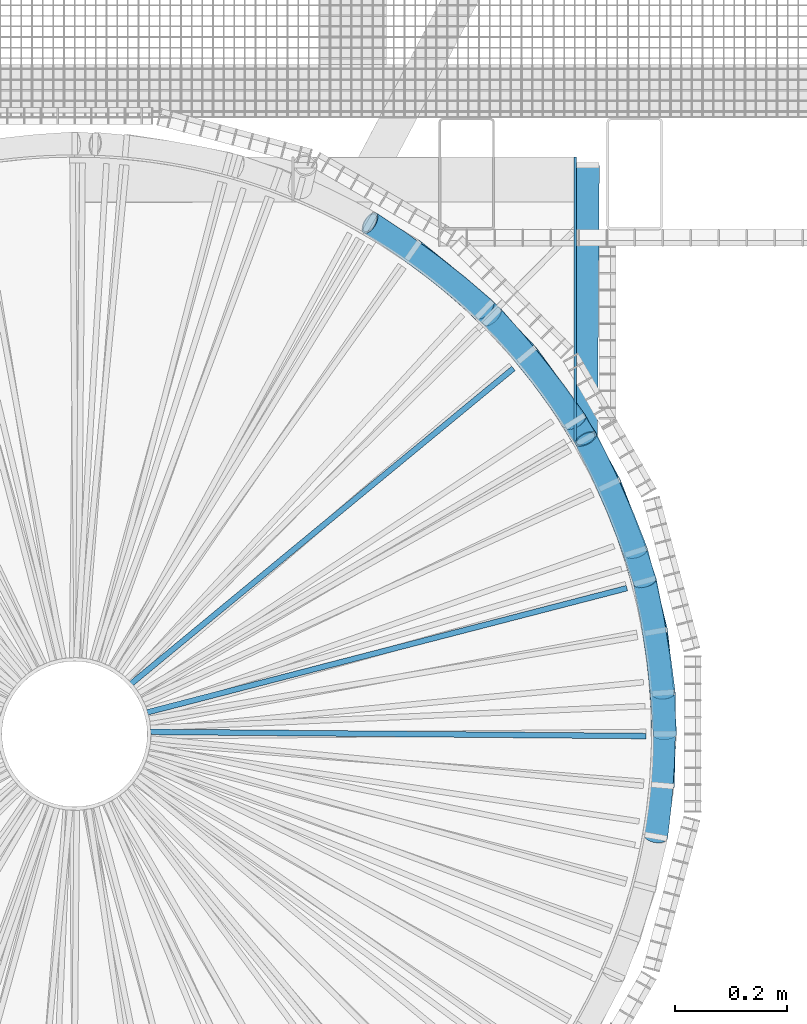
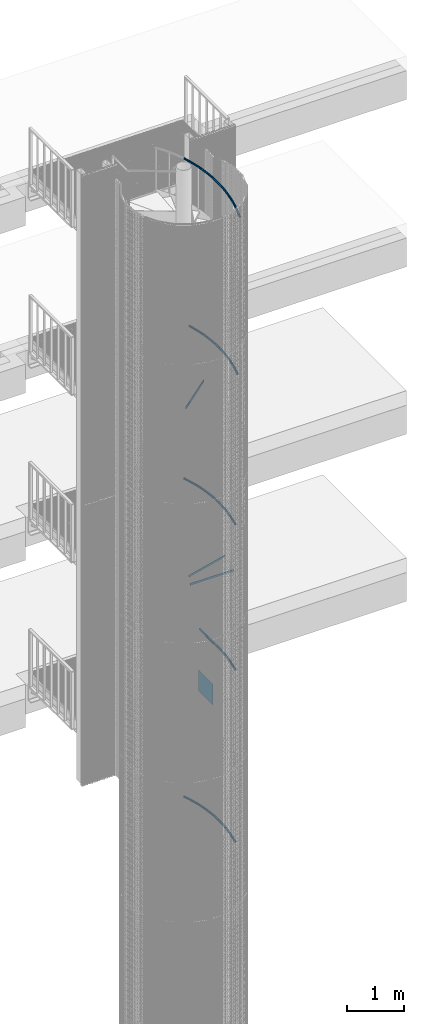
# One storey, part 314 of 1183: 19 members, 5 beams, 22 elements without a shape of their own.
"""IFC2X3 building model written with IfcOpenShell, lengths in millimetres."""

from ifc_helpers import new_model, entity, si_unit, frame, origin_with_axes, origin_2d_with_axis, place, context, subcontext, project, spatial, polyline, rectangle, hollow_circle, outline, extrude, boolean, material, type_object, element, aggregate, save


model = new_model("IFC2X3")

# Units and contexts
model_context = context("Model", 3, precision=1e-05, world=origin_with_axes())
body_context = subcontext(model_context, "Body", "Model", "MODEL_VIEW")
ifc_project = project(units=[si_unit("LENGTHUNIT", "METRE", prefix="MILLI"), si_unit("AREAUNIT", "SQUARE_METRE"), si_unit("VOLUMEUNIT", "CUBIC_METRE"), si_unit("MASSUNIT", "GRAM", prefix="KILO"), si_unit("TIMEUNIT", "SECOND"), si_unit("PLANEANGLEUNIT", "RADIAN"), si_unit("SOLIDANGLEUNIT", "STERADIAN"), si_unit("THERMODYNAMICTEMPERATUREUNIT", "DEGREE_CELSIUS"), si_unit("LUMINOUSINTENSITYUNIT", "LUMEN")], contexts=[model_context])

# Site, building, storey
site_placement = place(None, origin_with_axes())
site = spatial("IfcSite", under=ifc_project, at=site_placement, Name="Undefined", CompositionType="ELEMENT")
building_placement = place(site_placement, origin_with_axes())
building = spatial("IfcBuilding", under=site, at=building_placement, Name="Undefined", CompositionType="ELEMENT")
storey_placement = place(building_placement, origin_with_axes())
storey = spatial("IfcBuildingStorey", under=building, at=storey_placement, Name="Undefined", CompositionType="ELEMENT", Elevation=0.0)

# Assembly, beam
assembly_1_placement = place(storey_placement, origin_with_axes())
assembly_1 = element("IfcElementAssembly", 1, at=assembly_1_placement, inside=storey, Name="MONTANT", AssemblyPlace="NOTDEFINED", PredefinedType="NOTDEFINED")
ifc_material = material(Name="STEEL/S235JR")
beam_type_1 = type_object("IfcBeamType", Name="TUBE-42.4*3.2", PredefinedType="NOTDEFINED")
beam_1_placement = place(assembly_1_placement, frame((912.785820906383, 526.99527353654, 7589.84000000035), z_axis=(0.999979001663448, -0.00648044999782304, 0.0), x_axis=(0.006480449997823, 0.999979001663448, 0.0)))
beam_1 = element("IfcBeam", 2, at=beam_1_placement, type_object=beam_type_1, material=ifc_material, Name="MAIN_COURANTE", context=body_context, shape_type="SweptSolid", body=[
    extrude(hollow_circle(Radius=21.200000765, WallThickness=3.200000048, at=origin_2d_with_axis()), frame((488.384981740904, -9.09494701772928e-13, -4.23606446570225e-16), z_axis=(-1.0, 0.0, 0.0), x_axis=(0.0, -1.0, 0.0)), (0.0, 0.0, 1.0), 488.38),
])

assembly_2_placement = place(storey_placement, origin_with_axes())
assembly_2 = element("IfcElementAssembly", 3, at=assembly_2_placement, inside=storey, Name="POTEAU", AssemblyPlace="NOTDEFINED", PredefinedType="NOTDEFINED")
beam_type_2 = type_object("IfcBeamType", Name="PL10*40", PredefinedType="NOTDEFINED")
beam_2_placement = place(assembly_2_placement, frame((61.5514692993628, 57.2469454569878, 13196.4), z_axis=(0.0, 0.0, 1.0), x_axis=(0.771460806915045, 0.636276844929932, 0.0)))
beam_2 = element("IfcBeam", 4, at=beam_2_placement, type_object=beam_type_2, material=ifc_material, Name="RAIDISSEUR", context=body_context, shape_type="CSG", body=[
    boolean("DIFFERENCE", extrude(rectangle(XDim=10.0, YDim=40.0, at=origin_2d_with_axis()), frame((935.982964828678, -2.59787459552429e-14, -3.63797880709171e-12), z_axis=(-1.0, 0.0, 0.0), x_axis=(0.0, -1.0, 0.0)), (0.0, 0.0, 1.0), 935.98), extrude(outline(polyline([(0.0, 0.0), (30.5663019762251, -4.91127138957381e-11), (60.366242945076, 6.80164206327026), (87.9055294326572, 20.0638634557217), (111.803226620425, 39.1216410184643), (130.861004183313, 63.0193382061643), (144.123225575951, 90.5586246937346), (150.9248676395, 120.358565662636), (150.924867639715, 150.924867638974), (144.123225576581, 180.724808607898), (130.86100418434, 208.264095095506), (111.803226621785, 232.161792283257), (87.9055294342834, 251.219569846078), (60.3662429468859, 264.481791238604), (30.5663019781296, 271.283433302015), (1.90266291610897e-09, 271.28343330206), (-29.7999409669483, 264.481791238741), (-57.3392274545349, 251.219569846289), (-81.2369246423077, 232.161792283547), (-100.294702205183, 208.26409509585), (-113.556923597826, 180.724808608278), (-120.35856566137, 150.92486763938), (-120.358565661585, 120.358565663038), (-113.556923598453, 90.5586246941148), (-100.294702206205, 63.0193382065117), (-81.2369246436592, 39.1216410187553), (-57.3392274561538, 20.0638634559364), (-29.7999409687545, 6.80164206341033), (0.0, 0.0)])), frame((-187.015846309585, 84.4501059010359, -22.5), z_axis=(0.0, 0.0, 1.0), x_axis=(-0.566618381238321, -0.823980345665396, 0.0)), (0.0, 0.0, 1.0), 45.0)),
])
aggregate(assembly_2, [beam_2])

# Assembly, beams
assembly_3_placement = place(storey_placement, origin_with_axes())
assembly_3 = element("IfcElementAssembly", 5, at=assembly_3_placement, inside=storey, Name="POTEAU", AssemblyPlace="NOTDEFINED", PredefinedType="NOTDEFINED")
beam_3_placement = place(assembly_3_placement, frame((79.9781805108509, 25.8705774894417, 9596.40000000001), z_axis=(0.0, 0.0, 1.0), x_axis=(0.968083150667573, 0.250629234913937, 0.0)))
beam_3 = element("IfcBeam", 6, at=beam_3_placement, type_object=beam_type_2, material=ifc_material, Name="RAIDISSEUR", context=body_context, shape_type="CSG", body=[
    boolean("DIFFERENCE", extrude(rectangle(XDim=10.0, YDim=40.0, at=origin_2d_with_axis()), frame((935.982964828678, -2.59787459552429e-14, -3.63797880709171e-12), z_axis=(-1.0, 0.0, 0.0), x_axis=(0.0, -1.0, 0.0)), (0.0, 0.0, 1.0), 935.98), extrude(outline(polyline([(0.0, 0.0), (30.5663019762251, -4.91127138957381e-11), (60.366242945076, 6.80164206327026), (87.9055294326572, 20.0638634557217), (111.803226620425, 39.1216410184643), (130.861004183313, 63.0193382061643), (144.123225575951, 90.5586246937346), (150.9248676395, 120.358565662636), (150.924867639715, 150.924867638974), (144.123225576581, 180.724808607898), (130.86100418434, 208.264095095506), (111.803226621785, 232.161792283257), (87.9055294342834, 251.219569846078), (60.3662429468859, 264.481791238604), (30.5663019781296, 271.283433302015), (1.90266291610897e-09, 271.28343330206), (-29.7999409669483, 264.481791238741), (-57.3392274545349, 251.219569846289), (-81.2369246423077, 232.161792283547), (-100.294702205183, 208.26409509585), (-113.556923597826, 180.724808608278), (-120.35856566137, 150.92486763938), (-120.358565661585, 120.358565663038), (-113.556923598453, 90.5586246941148), (-100.294702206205, 63.0193382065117), (-81.2369246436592, 39.1216410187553), (-57.3392274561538, 20.0638634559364), (-29.7999409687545, 6.80164206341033), (0.0, 0.0)])), frame((-215.15882831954, 32.4946825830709, -22.5), z_axis=(0.0, 0.0, 1.0), x_axis=(-0.165301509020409, -0.986243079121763, 0.0)), (0.0, 0.0, 1.0), 45.0)),
])
beam_4_placement = place(assembly_3_placement, frame((83.9487882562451, 4.28918262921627, 9439.88000000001), z_axis=(0.0, 0.0, 1.0), x_axis=(0.99996413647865, -0.00846910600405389, 0.0)))
beam_4 = element("IfcBeam", 7, at=beam_4_placement, type_object=beam_type_2, material=ifc_material, Name="RAIDISSEUR", context=body_context, shape_type="CSG", body=[
    boolean("DIFFERENCE", extrude(rectangle(XDim=10.0, YDim=40.0, at=origin_2d_with_axis()), frame((935.982964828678, -2.59787459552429e-14, -3.63797880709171e-12), z_axis=(-1.0, 0.0, 0.0), x_axis=(0.0, -1.0, 0.0)), (0.0, 0.0, 1.0), 935.98), extrude(outline(polyline([(0.0, 0.0), (30.5663019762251, -4.91127138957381e-11), (60.366242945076, 6.80164206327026), (87.9055294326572, 20.0638634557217), (111.803226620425, 39.1216410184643), (130.861004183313, 63.0193382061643), (144.123225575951, 90.5586246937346), (150.9248676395, 120.358565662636), (150.924867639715, 150.924867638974), (144.123225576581, 180.724808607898), (130.86100418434, 208.264095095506), (111.803226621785, 232.161792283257), (87.9055294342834, 251.219569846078), (60.3662429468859, 264.481791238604), (30.5663019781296, 271.283433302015), (1.90266291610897e-09, 271.28343330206), (-29.7999409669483, 264.481791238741), (-57.3392274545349, 251.219569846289), (-81.2369246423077, 232.161792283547), (-100.294702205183, 208.26409509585), (-113.556923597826, 180.724808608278), (-120.35856566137, 150.92486763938), (-120.358565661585, 120.358565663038), (-113.556923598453, 90.5586246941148), (-100.294702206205, 63.0193382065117), (-81.2369246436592, 39.1216410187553), (-57.3392274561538, 20.0638634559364), (-29.7999409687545, 6.80164206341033), (0.0, 0.0)])), frame((-220.390952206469, -2.75275603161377, -22.5), z_axis=(0.0, 0.0, 1.0), x_axis=(0.0955894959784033, -0.995420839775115, 0.0)), (0.0, 0.0, 1.0), 45.0)),
])
aggregate(assembly_3, [beam_3, beam_4])

# Assembly, beam
assembly_4_placement = place(storey_placement, origin_with_axes())
assembly_4 = element("IfcElementAssembly", 8, at=assembly_4_placement, inside=storey, AssemblyPlace="NOTDEFINED", PredefinedType="NOTDEFINED")
beam_type_3 = type_object("IfcBeamType", Name="PLT4*450", PredefinedType="NOTDEFINED")
beam_5_placement = place(assembly_4_placement, frame((894.024575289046, 515.010911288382, 6489.84000000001), z_axis=(0.0, 0.0, 1.0), x_axis=(-0.000144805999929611, 0.999999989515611, 0.0)))
beam_5 = element("IfcBeam", 9, at=beam_5_placement, type_object=beam_type_3, material=ifc_material, Name="GARDE_PIED", context=body_context, shape_type="SweptSolid", body=[
    extrude(rectangle(XDim=4.0, YDim=450.0, at=origin_2d_with_axis()), frame((515.005549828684, 3.63797880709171e-12, 0.0), z_axis=(-1.0, 0.0, 0.0), x_axis=(0.0, -1.0, 0.0)), (0.0, 0.0, 1.0), 515.01),
])
aggregate(assembly_4, [beam_5])

# Member
member_type = type_object("IfcMemberType", Name="TUBE-42.4*3.2", PredefinedType="NOTDEFINED")
member_1_placement = place(assembly_1_placement, frame((1018.08582090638, 272.79527353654, 7435.32000000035), z_axis=(0.923879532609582, 0.382683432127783, -1.50203049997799e-10), x_axis=(-0.333667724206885, 0.805545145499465, 0.489655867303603)))
member_1 = element("IfcMember", 10, at=member_1_placement, type_object=member_type, material=ifc_material, Name="MAIN_COURANTE", context=body_context, shape_type="SweptSolid", body=[
    entity("IfcRevolvedAreaSolid", entity("IfcCircleHollowProfileDef", "AREA", None, entity("IfcAxis2Placement2D", entity("IfcCartesianPoint", [0.0, 0.0]), entity("IfcDirection", [1.0, 0.0])), 21.200000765, 3.200000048), entity("IfcAxis2Placement3D", entity("IfcCartesianPoint", [315.568566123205, -9.09494701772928e-13, -1.31255851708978e-15]), entity("IfcDirection", [-0.997194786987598, -4.44488503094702e-18, 0.0748502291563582]), entity("IfcDirection", [0.0, -1.0, 0.0])), entity("IfcAxis1Placement", entity("IfcCartesianPoint", [0.0, -2108.0, 0.0]), entity("IfcDirection", [1.0, 0.0, 0.0])), 0.149840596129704),
])

aggregate(assembly_1, [beam_1, member_1])

# Assembly, member
assembly_5_placement = place(storey_placement, origin_with_axes())
assembly_5 = element("IfcElementAssembly", 11, at=assembly_5_placement, inside=storey, Name="MONTANT", AssemblyPlace="NOTDEFINED", PredefinedType="NOTDEFINED")
member_2_placement = place(assembly_5_placement, frame((1054.00000001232, -3.31567662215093e-10, 7280.80000000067), z_axis=(0.991444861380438, 0.130526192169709, -6.66041160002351e-11), x_axis=(-0.113807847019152, 0.864456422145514, 0.489655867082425)))
member_2 = element("IfcMember", 12, at=member_2_placement, type_object=member_type, material=ifc_material, Name="MAIN_COURANTE", context=body_context, shape_type="SweptSolid", body=[
    entity("IfcRevolvedAreaSolid", entity("IfcCircleHollowProfileDef", "AREA", None, entity("IfcAxis2Placement2D", entity("IfcCartesianPoint", [0.0, 0.0]), entity("IfcDirection", [1.0, 0.0])), 21.200000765, 3.200000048), entity("IfcAxis2Placement3D", entity("IfcCartesianPoint", [315.568566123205, -9.09494701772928e-13, -1.31255851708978e-15]), entity("IfcDirection", [-0.997194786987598, -4.44488503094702e-18, 0.0748502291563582]), entity("IfcDirection", [0.0, -1.0, 0.0])), entity("IfcAxis1Placement", entity("IfcCartesianPoint", [0.0, -2108.0, 0.0]), entity("IfcDirection", [1.0, 0.0, 0.0])), 0.149840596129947),
])
aggregate(assembly_5, [member_2])

assembly_6_placement = place(storey_placement, origin_with_axes())
assembly_6 = element("IfcElementAssembly", 13, at=assembly_6_placement, inside=storey, Name="MONTANT", AssemblyPlace="NOTDEFINED", PredefinedType="NOTDEFINED")
member_3_placement = place(assembly_6_placement, frame((745.290547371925, 745.290547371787, 4035.88000000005), z_axis=(0.608761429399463, 0.793353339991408, 1.80913957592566e-10), x_axis=(-0.691737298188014, 0.53078869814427, 0.48965586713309)))
member_3 = element("IfcMember", 14, at=member_3_placement, type_object=member_type, material=ifc_material, Name="MAIN_COURANTE", context=body_context, shape_type="SweptSolid", body=[
    entity("IfcRevolvedAreaSolid", entity("IfcCircleHollowProfileDef", "AREA", None, entity("IfcAxis2Placement2D", entity("IfcCartesianPoint", [0.0, 0.0]), entity("IfcDirection", [1.0, 0.0])), 21.200000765, 3.200000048), entity("IfcAxis2Placement3D", entity("IfcCartesianPoint", [315.568566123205, -9.09494701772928e-13, -1.31255851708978e-15]), entity("IfcDirection", [-0.997194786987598, -4.44488503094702e-18, 0.0748502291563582]), entity("IfcDirection", [0.0, -1.0, 0.0])), entity("IfcAxis1Placement", entity("IfcCartesianPoint", [0.0, -2108.0, 0.0]), entity("IfcDirection", [1.0, 0.0, 0.0])), 0.14984059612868),
])
aggregate(assembly_6, [member_3])

assembly_7_placement = place(storey_placement, origin_with_axes())
assembly_7 = element("IfcElementAssembly", 15, at=assembly_7_placement, inside=storey, Name="MONTANT", AssemblyPlace="NOTDEFINED", PredefinedType="NOTDEFINED")
member_4_placement = place(assembly_7_placement, frame((912.790775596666, 527.000000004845, 3881.35999999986), z_axis=(0.793353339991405, 0.608761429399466, -1.80914867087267e-10), x_axis=(-0.530788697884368, 0.691737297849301, 0.489655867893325)))
member_4 = element("IfcMember", 16, at=member_4_placement, type_object=member_type, material=ifc_material, Name="MAIN_COURANTE", context=body_context, shape_type="SweptSolid", body=[
    entity("IfcRevolvedAreaSolid", entity("IfcCircleHollowProfileDef", "AREA", None, entity("IfcAxis2Placement2D", entity("IfcCartesianPoint", [0.0, 0.0]), entity("IfcDirection", [1.0, 0.0])), 21.200000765, 3.200000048), entity("IfcAxis2Placement3D", entity("IfcCartesianPoint", [315.568566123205, -9.09494701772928e-13, -1.31255851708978e-15]), entity("IfcDirection", [-0.997194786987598, -4.44488503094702e-18, 0.0748502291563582]), entity("IfcDirection", [0.0, -1.0, 0.0])), entity("IfcAxis1Placement", entity("IfcCartesianPoint", [0.0, -2108.0, 0.0]), entity("IfcDirection", [1.0, 0.0, 0.0])), 0.149840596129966),
])
aggregate(assembly_7, [member_4])

assembly_8_placement = place(storey_placement, origin_with_axes())
assembly_8 = element("IfcElementAssembly", 17, at=assembly_8_placement, inside=storey, Name="MONTANT", AssemblyPlace="NOTDEFINED", PredefinedType="NOTDEFINED")
member_5_placement = place(assembly_8_placement, frame((1018.08582090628, 272.795273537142, 3726.84000000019), z_axis=(0.923879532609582, 0.382683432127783, -1.50203049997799e-10), x_axis=(-0.333667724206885, 0.805545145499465, 0.489655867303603)))
member_5 = element("IfcMember", 18, at=member_5_placement, type_object=member_type, material=ifc_material, Name="MAIN_COURANTE", context=body_context, shape_type="SweptSolid", body=[
    entity("IfcRevolvedAreaSolid", entity("IfcCircleHollowProfileDef", "AREA", None, entity("IfcAxis2Placement2D", entity("IfcCartesianPoint", [0.0, 0.0]), entity("IfcDirection", [1.0, 0.0])), 21.200000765, 3.200000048), entity("IfcAxis2Placement3D", entity("IfcCartesianPoint", [315.568566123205, -9.09494701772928e-13, -1.31255851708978e-15]), entity("IfcDirection", [-0.997194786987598, -4.44488503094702e-18, 0.0748502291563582]), entity("IfcDirection", [0.0, -1.0, 0.0])), entity("IfcAxis1Placement", entity("IfcCartesianPoint", [0.0, -2108.0, 0.0]), entity("IfcDirection", [1.0, 0.0, 0.0])), 0.149840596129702),
])
aggregate(assembly_8, [member_5])

assembly_9_placement = place(storey_placement, origin_with_axes())
assembly_9 = element("IfcElementAssembly", 19, at=assembly_9_placement, inside=storey, Name="MONTANT", AssemblyPlace="NOTDEFINED", PredefinedType="NOTDEFINED")
member_6_placement = place(assembly_9_placement, frame((1054.0000000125, -1.78374648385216e-10, 3572.32000000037), z_axis=(0.991444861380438, 0.130526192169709, -6.66041160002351e-11), x_axis=(-0.113807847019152, 0.864456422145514, 0.489655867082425)))
member_6 = element("IfcMember", 20, at=member_6_placement, type_object=member_type, material=ifc_material, Name="MAIN_COURANTE", context=body_context, shape_type="SweptSolid", body=[
    entity("IfcRevolvedAreaSolid", entity("IfcCircleHollowProfileDef", "AREA", None, entity("IfcAxis2Placement2D", entity("IfcCartesianPoint", [0.0, 0.0]), entity("IfcDirection", [1.0, 0.0])), 21.200000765, 3.200000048), entity("IfcAxis2Placement3D", entity("IfcCartesianPoint", [315.568566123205, -9.09494701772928e-13, -1.31255851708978e-15]), entity("IfcDirection", [-0.997194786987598, -4.44488503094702e-18, 0.0748502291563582]), entity("IfcDirection", [0.0, -1.0, 0.0])), entity("IfcAxis1Placement", entity("IfcCartesianPoint", [0.0, -2108.0, 0.0]), entity("IfcDirection", [1.0, 0.0, 0.0])), 0.149840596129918),
])
aggregate(assembly_9, [member_6])

assembly_10_placement = place(storey_placement, origin_with_axes())
assembly_10 = element("IfcElementAssembly", 21, at=assembly_10_placement, inside=storey, Name="MONTANT", AssemblyPlace="NOTDEFINED", PredefinedType="NOTDEFINED")
member_7_placement = place(assembly_10_placement, frame((745.290547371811, 745.290547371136, 10876.919999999), z_axis=(0.608761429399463, 0.793353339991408, 1.80913957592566e-10), x_axis=(-0.689586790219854, 0.5291385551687, 0.494451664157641)))
member_7 = element("IfcMember", 22, at=member_7_placement, type_object=member_type, material=ifc_material, Name="MAIN_COURANTE", context=body_context, shape_type="SweptSolid", body=[
    entity("IfcRevolvedAreaSolid", entity("IfcCircleHollowProfileDef", "AREA", None, entity("IfcAxis2Placement2D", entity("IfcCartesianPoint", [0.0, 0.0]), entity("IfcDirection", [1.0, 0.0])), 21.200000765, 3.200000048), entity("IfcAxis2Placement3D", entity("IfcCartesianPoint", [316.552681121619, 9.09494701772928e-13, -1.82569453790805e-12]), entity("IfcDirection", [-0.997177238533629, 2.1263748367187e-18, 0.0750836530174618]), entity("IfcDirection", [0.0, -1.0, 0.0])), entity("IfcAxis1Placement", entity("IfcCartesianPoint", [0.0, -2108.0, 0.0]), entity("IfcDirection", [1.0, 0.0, 0.0])), 0.150308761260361),
])
aggregate(assembly_10, [member_7])

assembly_11_placement = place(storey_placement, origin_with_axes())
assembly_11 = element("IfcElementAssembly", 23, at=assembly_11_placement, inside=storey, Name="MONTANT", AssemblyPlace="NOTDEFINED", PredefinedType="NOTDEFINED")
member_8_placement = place(assembly_11_placement, frame((912.790775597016, 527.000000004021, 10720.4000000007), z_axis=(0.793353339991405, 0.608761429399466, -1.80914867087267e-10), x_axis=(-0.529138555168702, 0.689586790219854, 0.494451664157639)))
member_8 = element("IfcMember", 24, at=member_8_placement, type_object=member_type, material=ifc_material, Name="MAIN_COURANTE", context=body_context, shape_type="SweptSolid", body=[
    entity("IfcRevolvedAreaSolid", entity("IfcCircleHollowProfileDef", "AREA", None, entity("IfcAxis2Placement2D", entity("IfcCartesianPoint", [0.0, 0.0]), entity("IfcDirection", [1.0, 0.0])), 21.200000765, 3.200000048), entity("IfcAxis2Placement3D", entity("IfcCartesianPoint", [316.552681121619, 9.09494701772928e-13, -1.82569453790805e-12]), entity("IfcDirection", [-0.997177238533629, 2.1263748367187e-18, 0.0750836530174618]), entity("IfcDirection", [0.0, -1.0, 0.0])), entity("IfcAxis1Placement", entity("IfcCartesianPoint", [0.0, -2108.0, 0.0]), entity("IfcDirection", [1.0, 0.0, 0.0])), 0.150308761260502),
])
aggregate(assembly_11, [member_8])

assembly_12_placement = place(storey_placement, origin_with_axes())
assembly_12 = element("IfcElementAssembly", 25, at=assembly_12_placement, inside=storey, Name="MONTANT", AssemblyPlace="NOTDEFINED", PredefinedType="NOTDEFINED")
member_9_placement = place(assembly_12_placement, frame((1018.08582090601, 272.795273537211, 10563.8800000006), z_axis=(0.923879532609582, 0.382683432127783, -1.50203049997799e-10), x_axis=(-0.332630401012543, 0.803040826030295, 0.494451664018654)))
member_9 = element("IfcMember", 26, at=member_9_placement, type_object=member_type, material=ifc_material, Name="MAIN_COURANTE", context=body_context, shape_type="SweptSolid", body=[
    entity("IfcRevolvedAreaSolid", entity("IfcCircleHollowProfileDef", "AREA", None, entity("IfcAxis2Placement2D", entity("IfcCartesianPoint", [0.0, 0.0]), entity("IfcDirection", [1.0, 0.0])), 21.200000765, 3.200000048), entity("IfcAxis2Placement3D", entity("IfcCartesianPoint", [316.552681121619, 9.09494701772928e-13, -1.82569453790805e-12]), entity("IfcDirection", [-0.997177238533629, 2.1263748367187e-18, 0.0750836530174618]), entity("IfcDirection", [0.0, -1.0, 0.0])), entity("IfcAxis1Placement", entity("IfcCartesianPoint", [0.0, -2108.0, 0.0]), entity("IfcDirection", [1.0, 0.0, 0.0])), 0.150308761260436),
])
aggregate(assembly_12, [member_9])

assembly_13_placement = place(storey_placement, origin_with_axes())
assembly_13 = element("IfcElementAssembly", 27, at=assembly_13_placement, inside=storey, Name="MONTANT", AssemblyPlace="NOTDEFINED", PredefinedType="NOTDEFINED")
member_10_placement = place(assembly_13_placement, frame((1053.99999999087, -2.52157406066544e-10, 10407.3599999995), z_axis=(0.991444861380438, 0.130526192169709, -6.66041160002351e-11), x_axis=(-0.113454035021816, 0.861768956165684, 0.494451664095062)))
member_10 = element("IfcMember", 28, at=member_10_placement, type_object=member_type, material=ifc_material, Name="MAIN_COURANTE", context=body_context, shape_type="SweptSolid", body=[
    entity("IfcRevolvedAreaSolid", entity("IfcCircleHollowProfileDef", "AREA", None, entity("IfcAxis2Placement2D", entity("IfcCartesianPoint", [0.0, 0.0]), entity("IfcDirection", [1.0, 0.0])), 21.200000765, 3.200000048), entity("IfcAxis2Placement3D", entity("IfcCartesianPoint", [316.552681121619, 9.09494701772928e-13, -1.82569453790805e-12]), entity("IfcDirection", [-0.997177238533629, 2.1263748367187e-18, 0.0750836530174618]), entity("IfcDirection", [0.0, -1.0, 0.0])), entity("IfcAxis1Placement", entity("IfcCartesianPoint", [0.0, -2108.0, 0.0]), entity("IfcDirection", [1.0, 0.0, 0.0])), 0.150308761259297),
])
aggregate(assembly_13, [member_10])

assembly_14_placement = place(storey_placement, origin_with_axes())
assembly_14 = element("IfcElementAssembly", 29, at=assembly_14_placement, inside=storey, Name="MONTANT", AssemblyPlace="NOTDEFINED", PredefinedType="NOTDEFINED")
member_11_placement = place(assembly_14_placement, frame((807.410843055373, 677.498140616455, 14163.8800000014), z_axis=(0.675590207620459, 0.737277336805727, 8.45193426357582e-11), x_axis=(-0.640845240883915, 0.587226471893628, 0.494451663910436)))
member_11 = element("IfcMember", 30, at=member_11_placement, type_object=member_type, material=ifc_material, Name="MAIN_COURANTE", context=body_context, shape_type="SweptSolid", body=[
    entity("IfcRevolvedAreaSolid", entity("IfcCircleHollowProfileDef", "AREA", None, entity("IfcAxis2Placement2D", entity("IfcCartesianPoint", [0.0, 0.0]), entity("IfcDirection", [1.0, 0.0])), 21.200000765, 3.200000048), entity("IfcAxis2Placement3D", entity("IfcCartesianPoint", [316.552681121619, 9.09494701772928e-13, -1.82569453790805e-12]), entity("IfcDirection", [-0.997177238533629, 2.1263748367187e-18, 0.0750836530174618]), entity("IfcDirection", [0.0, -1.0, 0.0])), entity("IfcAxis1Placement", entity("IfcCartesianPoint", [0.0, -2108.0, 0.0]), entity("IfcDirection", [1.0, 0.0, 0.0])), 0.150308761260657),
])
aggregate(assembly_14, [member_11])

assembly_15_placement = place(storey_placement, origin_with_axes())
assembly_15 = element("IfcElementAssembly", 31, at=assembly_15_placement, inside=storey, Name="MONTANT", AssemblyPlace="NOTDEFINED", PredefinedType="NOTDEFINED")
member_12_placement = place(assembly_15_placement, frame((955.248407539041, 445.439647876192, 14007.3600000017), z_axis=(0.843391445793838, 0.537299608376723, 2.43751856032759e-10), x_axis=(-0.467023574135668, 0.733080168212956, 0.494451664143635)))
member_12 = element("IfcMember", 32, at=member_12_placement, type_object=member_type, material=ifc_material, Name="MAIN_COURANTE", context=body_context, shape_type="SweptSolid", body=[
    entity("IfcRevolvedAreaSolid", entity("IfcCircleHollowProfileDef", "AREA", None, entity("IfcAxis2Placement2D", entity("IfcCartesianPoint", [0.0, 0.0]), entity("IfcDirection", [1.0, 0.0])), 21.200000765, 3.200000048), entity("IfcAxis2Placement3D", entity("IfcCartesianPoint", [316.552681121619, 9.09494701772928e-13, -1.82569453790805e-12]), entity("IfcDirection", [-0.997177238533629, 2.1263748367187e-18, 0.0750836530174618]), entity("IfcDirection", [0.0, -1.0, 0.0])), entity("IfcAxis1Placement", entity("IfcCartesianPoint", [0.0, -2108.0, 0.0]), entity("IfcDirection", [1.0, 0.0, 0.0])), 0.150308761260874),
])
aggregate(assembly_15, [member_12])

assembly_16_placement = place(storey_placement, origin_with_axes())
assembly_16 = element("IfcElementAssembly", 33, at=assembly_16_placement, inside=storey, Name="MONTANT", AssemblyPlace="NOTDEFINED", PredefinedType="NOTDEFINED")
member_13_placement = place(assembly_16_placement, frame((1037.98737168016, 183.025179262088, 13850.8399999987), z_axis=(0.953716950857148, 0.300705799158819, -4.31926309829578e-10), x_axis=(-0.261375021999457, 0.828975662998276, 0.494451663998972)))
member_13 = element("IfcMember", 34, at=member_13_placement, type_object=member_type, material=ifc_material, Name="MAIN_COURANTE", context=body_context, shape_type="SweptSolid", body=[
    entity("IfcRevolvedAreaSolid", entity("IfcCircleHollowProfileDef", "AREA", None, entity("IfcAxis2Placement2D", entity("IfcCartesianPoint", [0.0, 0.0]), entity("IfcDirection", [1.0, 0.0])), 21.200000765, 3.200000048), entity("IfcAxis2Placement3D", entity("IfcCartesianPoint", [316.552681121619, 9.09494701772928e-13, -1.82569453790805e-12]), entity("IfcDirection", [-0.997177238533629, 2.1263748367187e-18, 0.0750836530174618]), entity("IfcDirection", [0.0, -1.0, 0.0])), entity("IfcAxis1Placement", entity("IfcCartesianPoint", [0.0, -2108.0, 0.0]), entity("IfcDirection", [1.0, 0.0, 0.0])), 0.150308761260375),
])
aggregate(assembly_16, [member_13])

assembly_17_placement = place(storey_placement, origin_with_axes())
assembly_17 = element("IfcElementAssembly", 35, at=assembly_17_placement, inside=storey, Name="MONTANT", AssemblyPlace="NOTDEFINED", PredefinedType="NOTDEFINED")
member_14_placement = place(assembly_17_placement, frame((1049.98921176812, -91.8621528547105, 13694.3200000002), z_axis=(0.999048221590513, 0.0436193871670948, 1.05123035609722e-10), x_axis=(-0.0379141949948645, 0.868377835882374, 0.494451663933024)))
member_14 = element("IfcMember", 36, at=member_14_placement, type_object=member_type, material=ifc_material, Name="MAIN_COURANTE", context=body_context, shape_type="SweptSolid", body=[
    entity("IfcRevolvedAreaSolid", entity("IfcCircleHollowProfileDef", "AREA", None, entity("IfcAxis2Placement2D", entity("IfcCartesianPoint", [0.0, 0.0]), entity("IfcDirection", [1.0, 0.0])), 21.200000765, 3.200000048), entity("IfcAxis2Placement3D", entity("IfcCartesianPoint", [316.552681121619, 9.09494701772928e-13, -1.82569453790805e-12]), entity("IfcDirection", [-0.997177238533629, 2.1263748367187e-18, 0.0750836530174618]), entity("IfcDirection", [0.0, -1.0, 0.0])), entity("IfcAxis1Placement", entity("IfcCartesianPoint", [0.0, -2108.0, 0.0]), entity("IfcDirection", [1.0, 0.0, 0.0])), 0.15030876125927),
])
aggregate(assembly_17, [member_14])

assembly_18_placement = place(storey_placement, origin_with_axes())
assembly_18 = element("IfcElementAssembly", 37, at=assembly_18_placement, inside=storey, Name="MONTANT", AssemblyPlace="NOTDEFINED", PredefinedType="NOTDEFINED")
member_15_placement = place(assembly_18_placement, frame((732.169922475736, 758.184149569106, 17763.879999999), z_axis=(0.601815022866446, 0.79863551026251, 1.61235220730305e-10), x_axis=(-0.682021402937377, 0.51393998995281, 0.520300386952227)))
member_15 = element("IfcMember", 38, at=member_15_placement, type_object=member_type, material=ifc_material, Name="MAIN_COURANTE", context=body_context, shape_type="SweptSolid", body=[
    entity("IfcRevolvedAreaSolid", entity("IfcCircleHollowProfileDef", "AREA", None, entity("IfcAxis2Placement2D", entity("IfcCartesianPoint", [0.0, 0.0]), entity("IfcDirection", [1.0, 0.0])), 21.200000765, 3.200000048), entity("IfcAxis2Placement3D", entity("IfcCartesianPoint", [300.826222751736, 9.26193911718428e-13, -2.55538133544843e-15]), entity("IfcDirection", [-0.997451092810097, -5.56582410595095e-17, 0.0713534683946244]), entity("IfcDirection", [0.0, -1.0, 0.0])), entity("IfcAxis1Placement", entity("IfcCartesianPoint", [0.0, -2108.0, 0.0]), entity("IfcDirection", [1.0, 0.0, 0.0])), 0.142828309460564),
])
aggregate(assembly_18, [member_15])

assembly_19_placement = place(storey_placement, origin_with_axes())
assembly_19 = element("IfcElementAssembly", 39, at=assembly_19_placement, inside=storey, Name="MONTANT", AssemblyPlace="NOTDEFINED", PredefinedType="NOTDEFINED")
member_16_placement = place(assembly_19_placement, frame((893.842693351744, 558.534904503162, 17607.3600000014), z_axis=(0.777145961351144, 0.629320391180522, -4.91600076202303e-11), x_axis=(-0.537429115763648, 0.663669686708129, 0.520300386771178)))
member_16 = element("IfcMember", 40, at=member_16_placement, type_object=member_type, material=ifc_material, Name="MAIN_COURANTE", context=body_context, shape_type="SweptSolid", body=[
    entity("IfcRevolvedAreaSolid", entity("IfcCircleHollowProfileDef", "AREA", None, entity("IfcAxis2Placement2D", entity("IfcCartesianPoint", [0.0, 0.0]), entity("IfcDirection", [1.0, 0.0])), 21.200000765, 3.200000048), entity("IfcAxis2Placement3D", entity("IfcCartesianPoint", [300.826222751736, 9.26193911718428e-13, -2.55538133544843e-15]), entity("IfcDirection", [-0.997451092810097, -5.56582410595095e-17, 0.0713534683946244]), entity("IfcDirection", [0.0, -1.0, 0.0])), entity("IfcAxis1Placement", entity("IfcCartesianPoint", [0.0, -2108.0, 0.0]), entity("IfcDirection", [1.0, 0.0, 0.0])), 0.142828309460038),
])
aggregate(assembly_19, [member_16])

assembly_20_placement = place(storey_placement, origin_with_axes())
assembly_20 = element("IfcElementAssembly", 41, at=assembly_20_placement, inside=storey, Name="MONTANT", AssemblyPlace="NOTDEFINED", PredefinedType="NOTDEFINED")
member_17_placement = place(assembly_20_placement, frame((1002.41356818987, 325.703912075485, 17450.8399999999), z_axis=(0.906307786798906, 0.422618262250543, 1.9012441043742e-10), x_axis=(-0.360908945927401, 0.773971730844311, 0.520300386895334)))
member_17 = element("IfcMember", 42, at=member_17_placement, type_object=member_type, material=ifc_material, Name="MAIN_COURANTE", context=body_context, shape_type="SweptSolid", body=[
    entity("IfcRevolvedAreaSolid", entity("IfcCircleHollowProfileDef", "AREA", None, entity("IfcAxis2Placement2D", entity("IfcCartesianPoint", [0.0, 0.0]), entity("IfcDirection", [1.0, 0.0])), 21.200000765, 3.200000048), entity("IfcAxis2Placement3D", entity("IfcCartesianPoint", [300.826222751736, 9.26193911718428e-13, -2.55538133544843e-15]), entity("IfcDirection", [-0.997451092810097, -5.56582410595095e-17, 0.0713534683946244]), entity("IfcDirection", [0.0, -1.0, 0.0])), entity("IfcAxis1Placement", entity("IfcCartesianPoint", [0.0, -2108.0, 0.0]), entity("IfcDirection", [1.0, 0.0, 0.0])), 0.14282830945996),
])
aggregate(assembly_20, [member_17])

assembly_21_placement = place(storey_placement, origin_with_axes())
assembly_21 = element("IfcElementAssembly", 43, at=assembly_21_placement, inside=storey, Name="MONTANT", AssemblyPlace="NOTDEFINED", PredefinedType="NOTDEFINED")
member_18_placement = place(assembly_21_placement, frame((1051.43250898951, 73.5233233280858, 17294.3200000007), z_axis=(0.981627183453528, 0.190808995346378, 1.5443583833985e-10), x_axis=(-0.162947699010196, 0.838293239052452, 0.520300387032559)))
member_18 = element("IfcMember", 44, at=member_18_placement, type_object=member_type, material=ifc_material, Name="MAIN_COURANTE", context=body_context, shape_type="SweptSolid", body=[
    entity("IfcRevolvedAreaSolid", entity("IfcCircleHollowProfileDef", "AREA", None, entity("IfcAxis2Placement2D", entity("IfcCartesianPoint", [0.0, 0.0]), entity("IfcDirection", [1.0, 0.0])), 21.200000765, 3.200000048), entity("IfcAxis2Placement3D", entity("IfcCartesianPoint", [300.826222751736, 9.26193911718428e-13, -2.55538133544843e-15]), entity("IfcDirection", [-0.997451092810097, -5.56582410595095e-17, 0.0713534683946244]), entity("IfcDirection", [0.0, -1.0, 0.0])), entity("IfcAxis1Placement", entity("IfcCartesianPoint", [0.0, -2108.0, 0.0]), entity("IfcDirection", [1.0, 0.0, 0.0])), 0.142828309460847),
])
aggregate(assembly_21, [member_18])

assembly_22_placement = place(storey_placement, origin_with_axes())
assembly_22 = element("IfcElementAssembly", 45, at=assembly_22_placement, inside=storey, Name="MONTANT", AssemblyPlace="NOTDEFINED", PredefinedType="NOTDEFINED")
member_19_placement = place(assembly_22_placement, frame((1037.98737166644, -183.025179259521, 17137.8000000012), z_axis=(0.998629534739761, -0.0523359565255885, -3.28080204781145e-10), x_axis=(0.0446940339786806, 0.852812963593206, 0.520300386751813)))
member_19 = element("IfcMember", 46, at=member_19_placement, type_object=member_type, material=ifc_material, Name="MAIN_COURANTE", context=body_context, shape_type="SweptSolid", body=[
    entity("IfcRevolvedAreaSolid", entity("IfcCircleHollowProfileDef", "AREA", None, entity("IfcAxis2Placement2D", entity("IfcCartesianPoint", [0.0, 0.0]), entity("IfcDirection", [1.0, 0.0])), 21.200000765, 3.200000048), entity("IfcAxis2Placement3D", entity("IfcCartesianPoint", [300.826222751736, 9.26193911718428e-13, -2.55538133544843e-15]), entity("IfcDirection", [-0.997451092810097, -5.56582410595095e-17, 0.0713534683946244]), entity("IfcDirection", [0.0, -1.0, 0.0])), entity("IfcAxis1Placement", entity("IfcCartesianPoint", [0.0, -2108.0, 0.0]), entity("IfcDirection", [1.0, 0.0, 0.0])), 0.142828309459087),
])
aggregate(assembly_22, [member_19])

save(model, "model.ifc")
